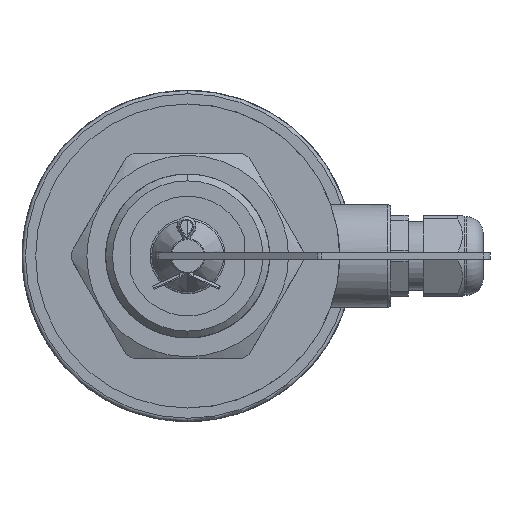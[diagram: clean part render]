
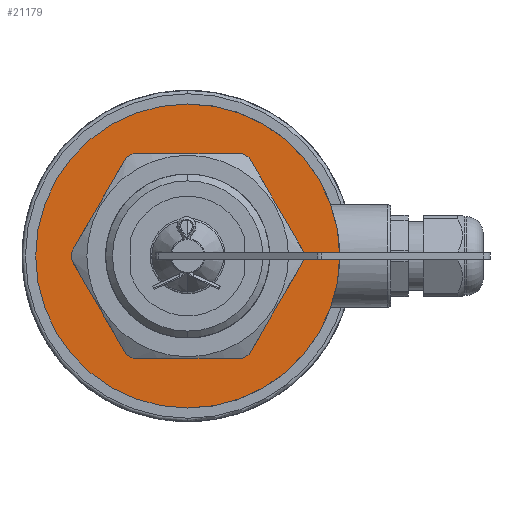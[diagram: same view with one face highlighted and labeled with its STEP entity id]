
A CAD part, front view. The second image highlights one B-rep face of the part: STEP entity #21179.
In plain terms, the highlighted planar face has unit normal (0, -1, 0).
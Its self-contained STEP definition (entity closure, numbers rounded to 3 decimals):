
#127 = VERTEX_POINT ( 'NONE', #6070 ) ;
#534 = DIRECTION ( 'NONE',  ( 0., 1., 0. ) ) ;
#1034 = EDGE_CURVE ( 'NONE', #6223, #23377, #13511, .T. ) ;
#1059 = EDGE_LOOP ( 'NONE', ( #3918, #21127 ) ) ;
#1086 = CARTESIAN_POINT ( 'NONE',  ( 0., 281.2, 0. ) ) ;
#2431 = ORIENTED_EDGE ( 'NONE', *, *, #8031, .T. ) ;
#2486 = FACE_BOUND ( 'NONE', #4370, .T. ) ;
#3036 = DIRECTION ( 'NONE',  ( 0., 0., 1. ) ) ;
#3342 = CIRCLE ( 'NONE', #17835, 18. ) ;
#3828 = CARTESIAN_POINT ( 'NONE',  ( 0., 281.2, 0. ) ) ;
#3918 = ORIENTED_EDGE ( 'NONE', *, *, #8795, .F. ) ;
#4370 = EDGE_LOOP ( 'NONE', ( #2431, #10835 ) ) ;
#5785 = VERTEX_POINT ( 'NONE', #9093 ) ;
#6070 = CARTESIAN_POINT ( 'NONE',  ( 0., 281.2, -18. ) ) ;
#6223 = VERTEX_POINT ( 'NONE', #16414 ) ;
#6337 = DIRECTION ( 'NONE',  ( 0., 1., 0. ) ) ;
#7055 = EDGE_CURVE ( 'NONE', #127, #5785, #18637, .T. ) ;
#7060 = DIRECTION ( 'NONE',  ( 0., 1., 0. ) ) ;
#8031 = EDGE_CURVE ( 'NONE', #5785, #127, #3342, .T. ) ;
#8344 = CARTESIAN_POINT ( 'NONE',  ( 0., 281.2, 44.5 ) ) ;
#8467 = DIRECTION ( 'NONE',  ( 0., 0., 1. ) ) ;
#8795 = EDGE_CURVE ( 'NONE', #23377, #6223, #24085, .T. ) ;
#9093 = CARTESIAN_POINT ( 'NONE',  ( 0., 281.2, 18. ) ) ;
#10403 = PLANE ( 'NONE',  #14255 ) ;
#10835 = ORIENTED_EDGE ( 'NONE', *, *, #7055, .T. ) ;
#11741 = DIRECTION ( 'NONE',  ( 0., 1., 0. ) ) ;
#12882 = CARTESIAN_POINT ( 'NONE',  ( 0., 281.2, 0. ) ) ;
#12899 = AXIS2_PLACEMENT_3D ( 'NONE', #1086, #7060, #14955 ) ;
#13511 = CIRCLE ( 'NONE', #18077, 44.5 ) ;
#14233 = DIRECTION ( 'NONE',  ( 0., 0., 1. ) ) ;
#14255 = AXIS2_PLACEMENT_3D ( 'NONE', #18289, #534, #8467 ) ;
#14955 = DIRECTION ( 'NONE',  ( 0., 0., 1. ) ) ;
#16414 = CARTESIAN_POINT ( 'NONE',  ( 0., 281.2, -44.5 ) ) ;
#17835 = AXIS2_PLACEMENT_3D ( 'NONE', #24088, #6337, #14233 ) ;
#18077 = AXIS2_PLACEMENT_3D ( 'NONE', #12882, #20776, #3036 ) ;
#18289 = CARTESIAN_POINT ( 'NONE',  ( 44.5, 281.2, 0. ) ) ;
#18637 = CIRCLE ( 'NONE', #21941, 18. ) ;
#19629 = DIRECTION ( 'NONE',  ( 0., 0., 1. ) ) ;
#20225 = FACE_OUTER_BOUND ( 'NONE', #1059, .T. ) ;
#20776 = DIRECTION ( 'NONE',  ( 0., 1., 0. ) ) ;
#21127 = ORIENTED_EDGE ( 'NONE', *, *, #1034, .F. ) ;
#21179 = ADVANCED_FACE ( 'NONE', ( #20225, #2486 ), #10403, .F. ) ;
#21941 = AXIS2_PLACEMENT_3D ( 'NONE', #3828, #11741, #19629 ) ;
#23377 = VERTEX_POINT ( 'NONE', #8344 ) ;
#24085 = CIRCLE ( 'NONE', #12899, 44.5 ) ;
#24088 = CARTESIAN_POINT ( 'NONE',  ( 0., 281.2, 0. ) ) ;
